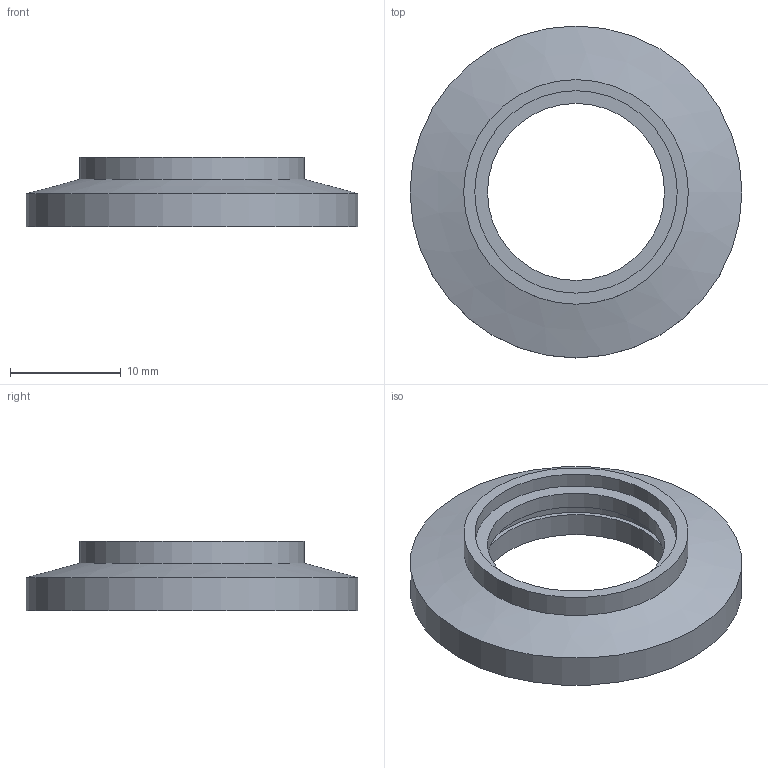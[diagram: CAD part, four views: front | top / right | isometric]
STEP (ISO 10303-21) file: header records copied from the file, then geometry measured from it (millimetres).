
FILE_DESCRIPTION( ( 'Unknown' ), '1' );
FILE_NAME( 'X:/Daten ( aktueller Bestand )/Projekte und Zeichnungen/Solid Edge/STP-Dateien/KF/15324.stp', 'Unknown', ( 'Unknown' ), ( 'Unknown' ), 'PSStep 14.0', 'Unknown', ' ' );
FILE_SCHEMA( ( 'AUTOMOTIVE_DESIGN { 1 0 10303 214 1 1 1 1 }' ) );
Length unit declared in the file: millimetre
Products named in the file (2): Assem1; 1_5
Assembly tree (1 placements, depth 2):
  Assem1
    1_5
Bounding box: 30 x 30 x 6.3 mm (x, y, z)
Volume: 1936.1 mm3; surface area: 1822.2 mm2
Topology: 1 solids, 1 shells, 12 faces, 19 edges, 12 vertices
Faces by surface type: cylinder 6, plane 5, cone 1
Full cylindrical faces by diameter (mm): 16 x1, 17.2 x1, 18 x1, 18.3 x1, 20.3 x1, 30 x1
Entity records: 382 total; most frequent: DIRECTION 52, CARTESIAN_POINT 38, AXIS2_PLACEMENT_3D 26, EDGE_LOOP 24, ORIENTED_EDGE 24, FACE_OUTER_BOUND 18, STYLED_ITEM 12, PRESENTATION_STYLE_ASSIGNMENT 12
